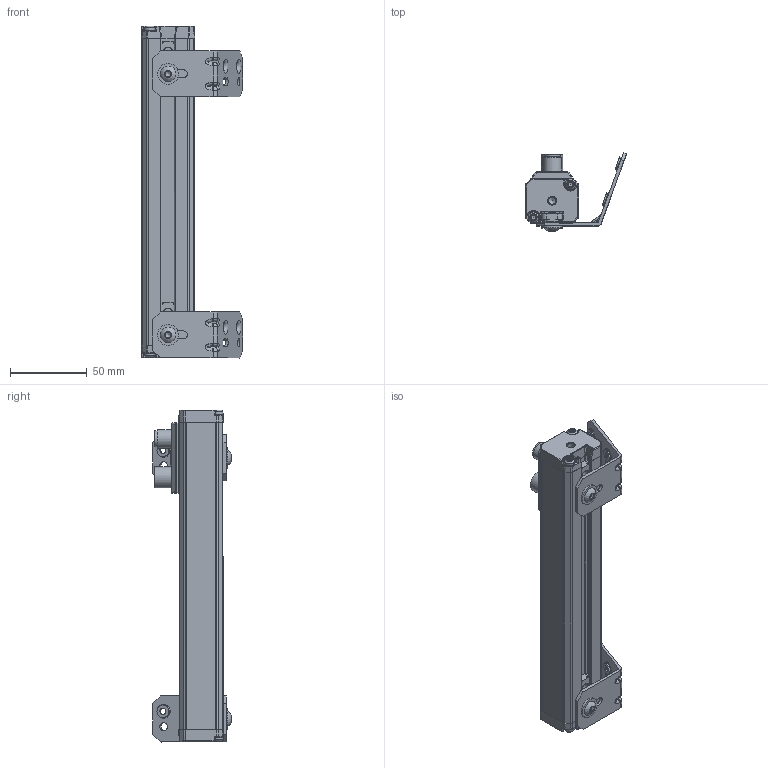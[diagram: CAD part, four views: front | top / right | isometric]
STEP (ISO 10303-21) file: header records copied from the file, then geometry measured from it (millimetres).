
FILE_DESCRIPTION(/* description */ (''),/* implementation_level */ '2;1');
FILE_NAME(/* name */ '3DCAD_OGS600_140.stp',/* time_stamp */ '2017-10-27T14:03:13+02:00',/* author */ ('CC2'),/* organization */ ('Leuze electronic'),/* preprocessor_version */ 'ST-DEVELOPER v16',/* originating_system */ 'SIEMENS PLM Software NX 11.0',/* authorisation */ '');
FILE_SCHEMA (('AUTOMOTIVE_DESIGN { 1 0 10303 214 3 1 1 1 }'));
Length unit declared in the file: millimetre
Products named in the file (1): 19-102744_00.0_1-3DCAD_OGS600_140
Bounding box: 65.8 x 50.97 x 216.19 mm (x, y, z)
Volume: 203184.5 mm3; surface area: 60780.4 mm2
Topology: 5 solids, 7 shells, 911 faces, 2414 edges, 1537 vertices
Faces by surface type: plane 353, cylinder 349, bspline 96, cone 55, torus 46, sphere 12
Full cylindrical faces by diameter (mm): 1 x8, 1.1 x5, 1.6 x5, 3.5 x4, 4 x2, 4.2 x4, 4.7 x2, 4.8 x2, 5.2 x2, 5.6 x2, 6 x2, 7 x4, 8.2 x5, 8.4 x1, 8.5 x2, 9.2 x2, 9.55 x1, 9.7 x1, 10.4 x1, 10.8 x1, 12 x2, 13.6 x2, 13.75 x1, 14 x1
Entity records: 37496 total; most frequent: CARTESIAN_POINT 13349, ORIENTED_EDGE 4418, DIRECTION 3461, EDGE_CURVE 2209, VERTEX_POINT 1483, AXIS2_PLACEMENT_3D 1373, EDGE_LOOP 1113, ADVANCED_FACE 911
